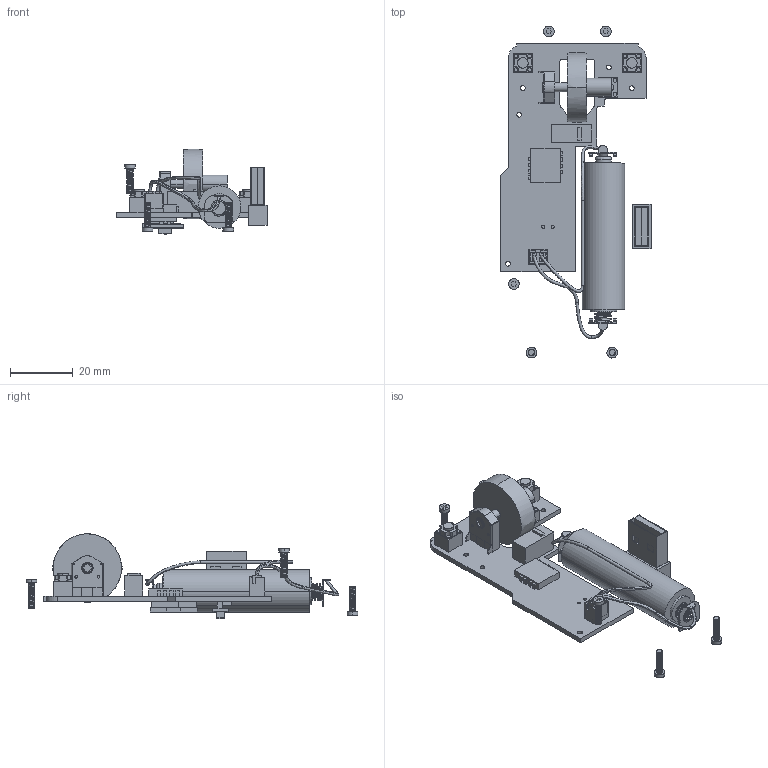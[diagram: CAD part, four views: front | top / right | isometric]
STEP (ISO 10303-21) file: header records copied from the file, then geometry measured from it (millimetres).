
FILE_DESCRIPTION(/* description */ (''),/* implementation_level */ '2;1');
FILE_NAME(/* name */ '元器件',/* time_stamp */ '2024-04-28T09:50:40+08:00',/* author */ (''),/* organization */ (''),/* preprocessor_version */ 'ST-DEVELOPER v16.5',/* originating_system */ '',/* authorisation */ '');
FILE_SCHEMA (('CONFIG_CONTROL_DESIGN'));
Length unit declared in the file: millimetre
Products named in the file (1): Document
Bounding box: 47.72 x 105.5 x 27.24 mm (x, y, z)
Volume: 16024.3 mm3; surface area: 13516.3 mm2
Topology: 18 solids, 18 shells, 891 faces, 2253 edges, 1462 vertices
Faces by surface type: plane 506, cylinder 337, bspline 48
Entity records: 61302 total; most frequent: CARTESIAN_POINT 46121, ORIENTED_EDGE 4506, EDGE_CURVE 2253, B_SPLINE_CURVE_WITH_KNOTS 1463, VERTEX_POINT 1462, EDGE_LOOP 995, ADVANCED_FACE 891, FACE_OUTER_BOUND 891
